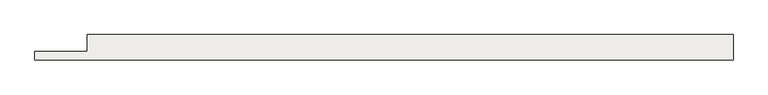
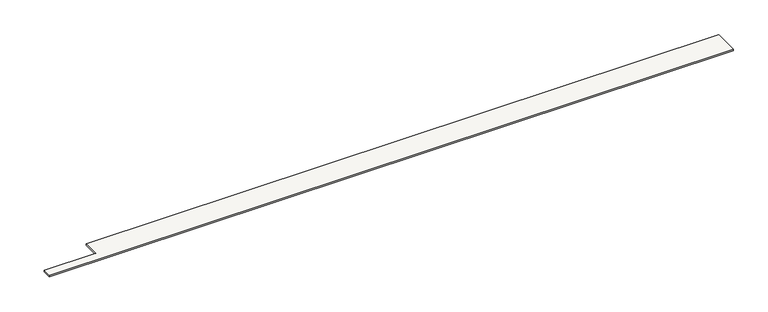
"""IFC4 building model written with IfcOpenShell, lengths in millimetres: slab geometry, Sol-02 - Tablette bois 2cm."""

from ifc_helpers import new_model, si_unit, origin, origin_with_axes, place, context, project, spatial, polyline, outline, extrude, source, transform, mapped, element, save


def slab_d1acc3bf(model_context):
    return source(origin(), model_context, "Body", "SweptSolid", [
        extrude(outline(polyline([(63698.9999483, 300.0), (63698.9999483, 0.0), (55428.9999483, 0.0), (55428.9999483, 100.0), (56048.999948, 100.0), (56048.999948, 300.0), (63698.9999483, 300.0)])), origin_with_axes(), (0.0, 0.0, 1.0), 20.0),
    ])


if __name__ == "__main__":
    model = new_model("IFC4")
    model_context = context("Model", 3, world=origin())
    ifc_project = project(units=[si_unit("LENGTHUNIT", "METRE", prefix="MILLI")], contexts=[model_context])
    site = spatial("IfcSite", under=ifc_project)
    building = spatial("IfcBuilding", under=site)
    placement = place(None, origin())
    slab_shape = slab_d1acc3bf(model_context)
    element("IfcSlab", 1, ObjectType="Sol-02 - Tablette bois 2cm", at=placement, inside=building, context=model_context, shape_type="MappedRepresentation", body=[
        mapped(slab_shape, transform((0.0, 0.0, 0.0), x_axis=(1.0, 0.0, 0.0), y_axis=(0.0, 1.0, 0.0), z_axis=(0.0, 0.0, 1.0))),
    ])
    save(model, "model.ifc")
